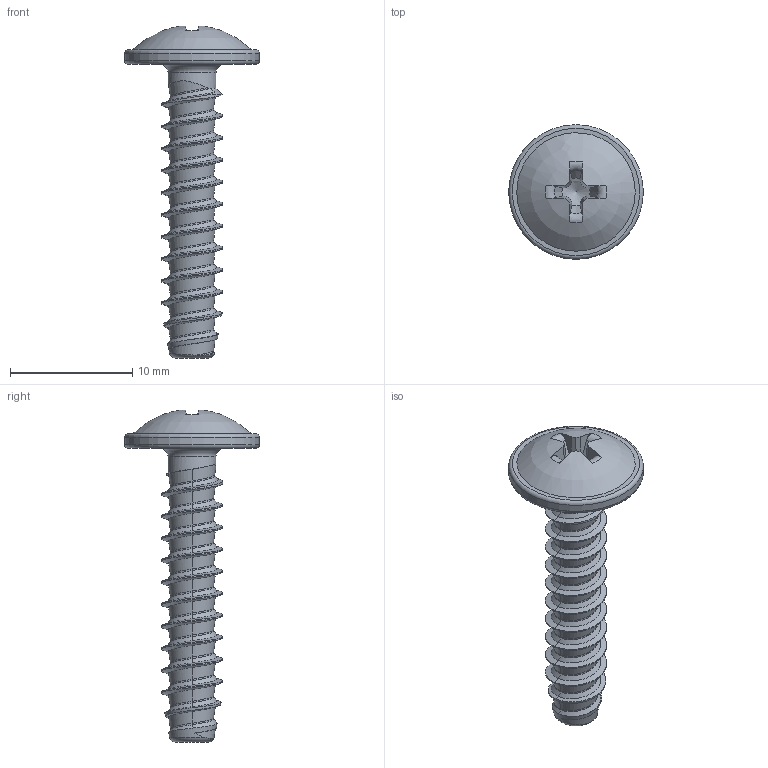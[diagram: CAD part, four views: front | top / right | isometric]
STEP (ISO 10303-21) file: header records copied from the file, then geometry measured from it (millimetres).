
FILE_DESCRIPTION(/* description */ (''),/* implementation_level */ '2;1');
FILE_NAME(/* name */ 'KN6031-STSplus-50x24-H2.step',/* time_stamp */ '2017-09-29T13:19:22+02:00',/* author */ (''),/* organization */ (''),/* preprocessor_version */ 'ST-DEVELOPER v16',/* originating_system */ 'SIEMENS PLM Software NX 10.0',/* authorisation */ '');
FILE_SCHEMA (('AUTOMOTIVE_DESIGN { 1 0 10303 214 3 1 1 1 }'));
Length unit declared in the file: millimetre
Products named in the file (1): KN6031-STSplus-50x24-H2
Bounding box: 11 x 11 x 27.14 mm (x, y, z)
Volume: 467.1 mm3; surface area: 675.4 mm2
Topology: 1 solids, 1 shells, 102 faces, 248 edges, 149 vertices
Faces by surface type: bspline 64, plane 19, torus 8, cone 7, cylinder 3, sphere 1
Full cylindrical faces by diameter (mm): 3.92 x1, 11 x1
Entity records: 6368 total; most frequent: CARTESIAN_POINT 4451, ORIENTED_EDGE 468, EDGE_CURVE 234, DIRECTION 230, VERTEX_POINT 144, B_SPLINE_CURVE_WITH_KNOTS 122, EDGE_LOOP 111, ADVANCED_FACE 102
